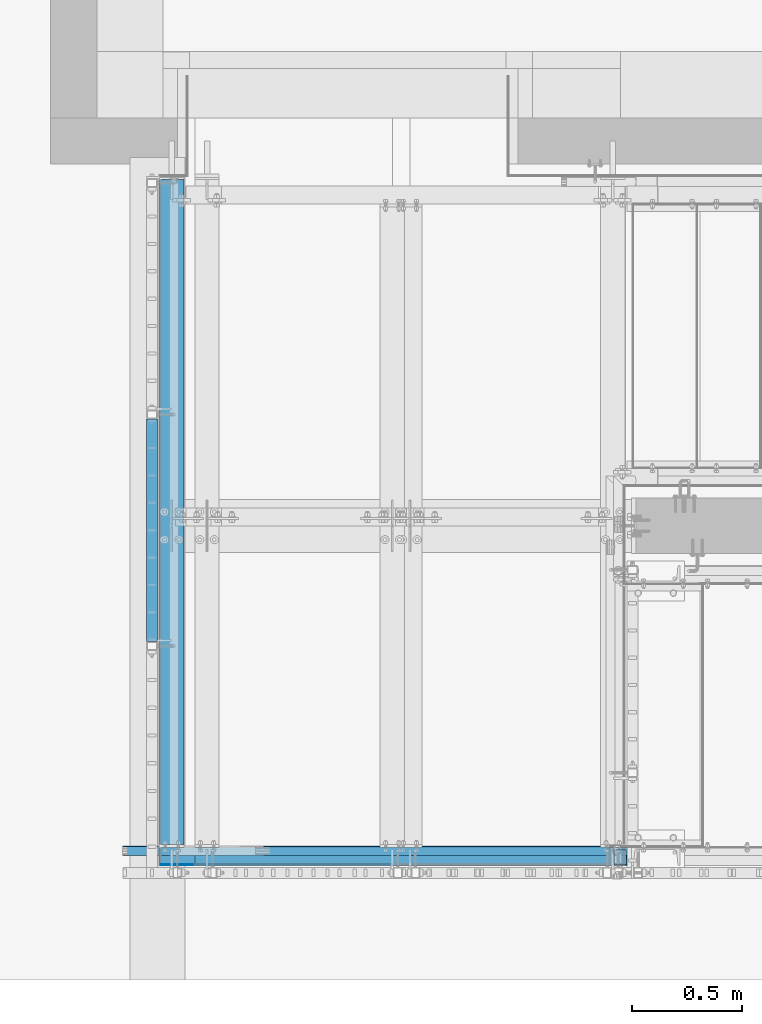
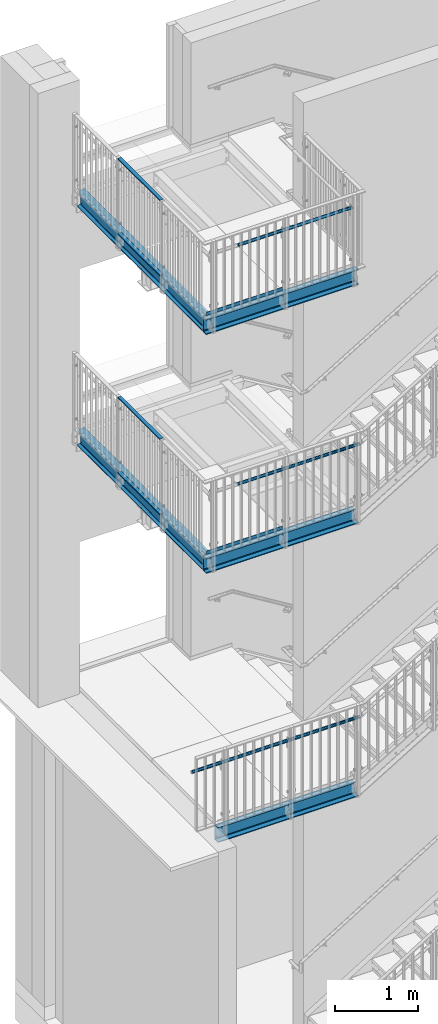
# One storey, part 25 of 410: 14 beams, 48 openings.
"""IFC2X3 building model written with IfcOpenShell, lengths in millimetres."""

from ifc_helpers import new_model, entity, si_unit, converted_unit, point, frame, frame_2d, origin, origin_with_axes, origin_2d, origin_2d_with_axis, place, context, project, spatial, circle_curve, line_curve, trimmed, segment, composite_curve, rectangle, circle, hollow_circle, i_section, u_section, outline, extrude, clip, halfspace, material, element, save


model = new_model("IFC2X3")

# Units and contexts
model_context = context("Model", 3, precision=1e-09, world=origin_with_axes())
ifc_project = project(units=[si_unit("LENGTHUNIT", "METRE", prefix="MILLI"), si_unit("AREAUNIT", "SQUARE_METRE"), si_unit("VOLUMEUNIT", "CUBIC_METRE"), converted_unit("PLANEANGLEUNIT", "DEGREE", entity("IfcPlaneAngleMeasure", 0.01745329), si_unit("PLANEANGLEUNIT", "RADIAN"), dimensions=[0, 0, 0, 0, 0, 0, 0])], contexts=[model_context])

# Site, building, storey
site_placement = place(None, origin_with_axes())
site = spatial("IfcSite", under=ifc_project, at=site_placement, Name="mKR Teilneubau & Sanierung BA1 - Ostfildern", CompositionType="ELEMENT")
building_placement = place(site_placement, origin_with_axes())
building = spatial("IfcBuilding", under=site, at=building_placement, Name="Struktur 1", CompositionType="ELEMENT")
storey_placement = place(building_placement, origin_with_axes())
storey = spatial("IfcBuildingStorey", under=building, at=storey_placement, Name="Default Storey", CompositionType="ELEMENT", Elevation=0.0)

# Beam, openings
ifc_material = material(Name="S235JR")
beam_1_placement = place(None, frame((-3809.9985317, 18549.99935555, 7330.0), z_axis=(0.0, 1.0, 0.0), x_axis=(1.0, 0.0, 0.0)))
beam_1 = element("IfcBeam", 1, at=beam_1_placement, inside=storey, material=ifc_material, Name="-", ObjectType="-", context=model_context, shape_type="SweptSolid", body=[
    extrude(i_section(OverallWidth=110.0, OverallDepth=220.0, WebThickness=5.9, FlangeThickness=9.2, FilletRadius=12.0, at=origin_2d()), origin(), (0.0, 0.0, -1.0), 3014.999355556),
])
opening_1_placement = place(beam_1_placement, frame((-33.0, 110.5, -1632.99935555), z_axis=(0.0, -1.0, 0.0), x_axis=(1.0, 0.0, 0.0)))
element("IfcOpeningElement", 2, at=opening_1_placement, cuts=beam_1, ObjectType="Opening", context=model_context, shape_type="SweptSolid", body=[
    extrude(outline(composite_curve([segment(trimmed(line_curve((7.001, -8.0), (0.0, 1.0), 16.0), [point((7.001, -8.0))], [point((7.001, 8.0))], True, "CARTESIAN"), True, "CONTINUOUS"), segment(trimmed(circle_curve(frame_2d((0.0, 8.0), x_axis=(1.0, 0.0)), 7.001), [point((7.001, 8.0))], [point((-7.001, 8.0))], True, "CARTESIAN"), True, "CONTINUOUS"), segment(trimmed(line_curve((-7.001, 8.0), (0.0, -1.0), 16.0), [point((-7.001, 8.0))], [point((-7.001, -8.0))], True, "CARTESIAN"), True, "CONTINUOUS"), segment(trimmed(circle_curve(frame_2d((0.0, -8.0), x_axis=(1.0, 0.0)), 7.001), [point((-7.001, -8.0))], [point((7.001, -8.0))], True, "CARTESIAN"), True, "CONTINUOUS")], self_intersect=False)), origin(), (0.0, 0.0, 1.0), 10.2),
])
opening_2_placement = place(beam_1_placement, frame((33.0, 110.5, -1506.99935555), z_axis=(0.0, -1.0, 0.0), x_axis=(1.0, 0.0, 0.0)))
element("IfcOpeningElement", 3, at=opening_2_placement, cuts=beam_1, ObjectType="Opening", context=model_context, shape_type="SweptSolid", body=[
    extrude(outline(composite_curve([segment(trimmed(line_curve((7.001, -8.0), (0.0, 1.0), 16.0), [point((7.001, -8.0))], [point((7.001, 8.0))], True, "CARTESIAN"), True, "CONTINUOUS"), segment(trimmed(circle_curve(frame_2d((0.0, 8.0), x_axis=(1.0, 0.0)), 7.001), [point((7.001, 8.0))], [point((-7.001, 8.0))], True, "CARTESIAN"), True, "CONTINUOUS"), segment(trimmed(line_curve((-7.001, 8.0), (0.0, -1.0), 16.0), [point((-7.001, 8.0))], [point((-7.001, -8.0))], True, "CARTESIAN"), True, "CONTINUOUS"), segment(trimmed(circle_curve(frame_2d((0.0, -8.0), x_axis=(1.0, 0.0)), 7.001), [point((-7.001, -8.0))], [point((7.001, -8.0))], True, "CARTESIAN"), True, "CONTINUOUS")], self_intersect=False)), origin(), (0.0, 0.0, 1.0), 10.2),
])
opening_3_placement = place(beam_1_placement, frame((33.0, 110.5, -1632.99935555), z_axis=(0.0, -1.0, 0.0), x_axis=(1.0, 0.0, 0.0)))
element("IfcOpeningElement", 4, at=opening_3_placement, cuts=beam_1, ObjectType="Opening", context=model_context, shape_type="SweptSolid", body=[
    extrude(outline(composite_curve([segment(trimmed(line_curve((7.001, -8.0), (0.0, 1.0), 16.0), [point((7.001, -8.0))], [point((7.001, 8.0))], True, "CARTESIAN"), True, "CONTINUOUS"), segment(trimmed(circle_curve(frame_2d((0.0, 8.0), x_axis=(1.0, 0.0)), 7.001), [point((7.001, 8.0))], [point((-7.001, 8.0))], True, "CARTESIAN"), True, "CONTINUOUS"), segment(trimmed(line_curve((-7.001, 8.0), (0.0, -1.0), 16.0), [point((-7.001, 8.0))], [point((-7.001, -8.0))], True, "CARTESIAN"), True, "CONTINUOUS"), segment(trimmed(circle_curve(frame_2d((0.0, -8.0), x_axis=(1.0, 0.0)), 7.001), [point((-7.001, -8.0))], [point((7.001, -8.0))], True, "CARTESIAN"), True, "CONTINUOUS")], self_intersect=False)), origin(), (0.0, 0.0, 1.0), 10.2),
])
opening_4_placement = place(beam_1_placement, frame((-33.0, 110.5, -1506.99935555), z_axis=(0.0, -1.0, 0.0), x_axis=(1.0, 0.0, 0.0)))
element("IfcOpeningElement", 5, at=opening_4_placement, cuts=beam_1, ObjectType="Opening", context=model_context, shape_type="SweptSolid", body=[
    extrude(outline(composite_curve([segment(trimmed(line_curve((7.001, -8.0), (0.0, 1.0), 16.0), [point((7.001, -8.0))], [point((7.001, 8.0))], True, "CARTESIAN"), True, "CONTINUOUS"), segment(trimmed(circle_curve(frame_2d((0.0, 8.0), x_axis=(1.0, 0.0)), 7.001), [point((7.001, 8.0))], [point((-7.001, 8.0))], True, "CARTESIAN"), True, "CONTINUOUS"), segment(trimmed(line_curve((-7.001, 8.0), (0.0, -1.0), 16.0), [point((-7.001, 8.0))], [point((-7.001, -8.0))], True, "CARTESIAN"), True, "CONTINUOUS"), segment(trimmed(circle_curve(frame_2d((0.0, -8.0), x_axis=(1.0, 0.0)), 7.001), [point((-7.001, -8.0))], [point((7.001, -8.0))], True, "CARTESIAN"), True, "CONTINUOUS")], self_intersect=False)), origin(), (0.0, 0.0, 1.0), 10.2),
])
opening_5_placement = place(beam_1_placement, frame((-3.45, 79.0, -15.0), z_axis=(1.0, 0.0, 0.0), x_axis=(0.0, 0.0, -1.0)))
element("IfcOpeningElement", 6, at=opening_5_placement, cuts=beam_1, ObjectType="Opening", context=model_context, shape_type="SweptSolid", body=[
    extrude(circle(Radius=7.001, at=origin_2d_with_axis()), origin(), (0.0, 0.0, 1.0), 6.9),
])
opening_6_placement = place(beam_1_placement, frame((-3.45, -79.0, -15.0), z_axis=(1.0, 0.0, 0.0), x_axis=(0.0, 0.0, -1.0)))
element("IfcOpeningElement", 7, at=opening_6_placement, cuts=beam_1, ObjectType="Opening", context=model_context, shape_type="SweptSolid", body=[
    extrude(circle(Radius=7.001, at=origin_2d_with_axis()), origin(), (0.0, 0.0, 1.0), 6.9),
])

# Beams
for number, where, z_axis, x_axis in (
    (8, (-3899.9485317, 17464.499999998, 5092.500007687), (0.0, 1.0, 0.0), (0.0, 0.0, -1.0)),
    (9, (-3899.9485317, 16455.499999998, 3992.500000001), (0.0, -1.0, 0.0), (0.0, 0.0, 1.0)),
    (10, (-3899.9485317, 17464.499999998, 8592.500007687), (0.0, 1.0, 0.0), (0.0, 0.0, -1.0)),
    (11, (-3899.9485317, 16455.499999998, 7492.500000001), (0.0, -1.0, 0.0), (0.0, 0.0, 1.0)),
):
    element("IfcBeam", number, at=place(None, frame(where, z_axis=z_axis, x_axis=x_axis)), inside=storey, material=ifc_material, Name="-", ObjectType="-", context=model_context, shape_type="SweptSolid", body=[
        extrude(rectangle(XDim=15.0, YDim=50.0, at=origin_2d()), origin(), (0.0, 0.0, -1.0), 1009.0),
    ])

# Beam, openings
beam_2_placement = place(None, frame((-3809.9985317, 18549.99935555, 3830.0), z_axis=(0.0, 1.0, 0.0), x_axis=(1.0, 0.0, 0.0)))
beam_2 = element("IfcBeam", 12, at=beam_2_placement, inside=storey, material=ifc_material, Name="-", ObjectType="-", context=model_context, shape_type="SweptSolid", body=[
    extrude(i_section(OverallWidth=110.0, OverallDepth=220.0, WebThickness=5.9, FlangeThickness=9.2, FilletRadius=12.0, at=origin_2d()), origin(), (0.0, 0.0, -1.0), 3014.999355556),
])
opening_7_placement = place(beam_2_placement, frame((33.0, 110.5, -1632.99935555), z_axis=(0.0, -1.0, 0.0), x_axis=(1.0, 0.0, 0.0)))
element("IfcOpeningElement", 13, at=opening_7_placement, cuts=beam_2, ObjectType="Opening", context=model_context, shape_type="SweptSolid", body=[
    extrude(outline(composite_curve([segment(trimmed(line_curve((7.001, -8.0), (0.0, 1.0), 16.0), [point((7.001, -8.0))], [point((7.001, 8.0))], True, "CARTESIAN"), True, "CONTINUOUS"), segment(trimmed(circle_curve(frame_2d((0.0, 8.0), x_axis=(1.0, 0.0)), 7.001), [point((7.001, 8.0))], [point((-7.001, 8.0))], True, "CARTESIAN"), True, "CONTINUOUS"), segment(trimmed(line_curve((-7.001, 8.0), (0.0, -1.0), 16.0), [point((-7.001, 8.0))], [point((-7.001, -8.0))], True, "CARTESIAN"), True, "CONTINUOUS"), segment(trimmed(circle_curve(frame_2d((0.0, -8.0), x_axis=(1.0, 0.0)), 7.001), [point((-7.001, -8.0))], [point((7.001, -8.0))], True, "CARTESIAN"), True, "CONTINUOUS")], self_intersect=False)), origin(), (0.0, 0.0, 1.0), 10.2),
])
opening_8_placement = place(beam_2_placement, frame((-33.0, 110.5, -1632.99935555), z_axis=(0.0, -1.0, 0.0), x_axis=(1.0, 0.0, 0.0)))
element("IfcOpeningElement", 14, at=opening_8_placement, cuts=beam_2, ObjectType="Opening", context=model_context, shape_type="SweptSolid", body=[
    extrude(outline(composite_curve([segment(trimmed(line_curve((7.001, -8.0), (0.0, 1.0), 16.0), [point((7.001, -8.0))], [point((7.001, 8.0))], True, "CARTESIAN"), True, "CONTINUOUS"), segment(trimmed(circle_curve(frame_2d((0.0, 8.0), x_axis=(1.0, 0.0)), 7.001), [point((7.001, 8.0))], [point((-7.001, 8.0))], True, "CARTESIAN"), True, "CONTINUOUS"), segment(trimmed(line_curve((-7.001, 8.0), (0.0, -1.0), 16.0), [point((-7.001, 8.0))], [point((-7.001, -8.0))], True, "CARTESIAN"), True, "CONTINUOUS"), segment(trimmed(circle_curve(frame_2d((0.0, -8.0), x_axis=(1.0, 0.0)), 7.001), [point((-7.001, -8.0))], [point((7.001, -8.0))], True, "CARTESIAN"), True, "CONTINUOUS")], self_intersect=False)), origin(), (0.0, 0.0, 1.0), 10.2),
])
opening_9_placement = place(beam_2_placement, frame((33.0, 110.5, -1506.99935555), z_axis=(0.0, -1.0, 0.0), x_axis=(1.0, 0.0, 0.0)))
element("IfcOpeningElement", 15, at=opening_9_placement, cuts=beam_2, ObjectType="Opening", context=model_context, shape_type="SweptSolid", body=[
    extrude(outline(composite_curve([segment(trimmed(line_curve((7.001, -8.0), (0.0, 1.0), 16.0), [point((7.001, -8.0))], [point((7.001, 8.0))], True, "CARTESIAN"), True, "CONTINUOUS"), segment(trimmed(circle_curve(frame_2d((0.0, 8.0), x_axis=(1.0, 0.0)), 7.001), [point((7.001, 8.0))], [point((-7.001, 8.0))], True, "CARTESIAN"), True, "CONTINUOUS"), segment(trimmed(line_curve((-7.001, 8.0), (0.0, -1.0), 16.0), [point((-7.001, 8.0))], [point((-7.001, -8.0))], True, "CARTESIAN"), True, "CONTINUOUS"), segment(trimmed(circle_curve(frame_2d((0.0, -8.0), x_axis=(1.0, 0.0)), 7.001), [point((-7.001, -8.0))], [point((7.001, -8.0))], True, "CARTESIAN"), True, "CONTINUOUS")], self_intersect=False)), origin(), (0.0, 0.0, 1.0), 10.2),
])
opening_10_placement = place(beam_2_placement, frame((-33.0, 110.5, -1506.99935555), z_axis=(0.0, -1.0, 0.0), x_axis=(1.0, 0.0, 0.0)))
element("IfcOpeningElement", 16, at=opening_10_placement, cuts=beam_2, ObjectType="Opening", context=model_context, shape_type="SweptSolid", body=[
    extrude(outline(composite_curve([segment(trimmed(line_curve((7.001, -8.0), (0.0, 1.0), 16.0), [point((7.001, -8.0))], [point((7.001, 8.0))], True, "CARTESIAN"), True, "CONTINUOUS"), segment(trimmed(circle_curve(frame_2d((0.0, 8.0), x_axis=(1.0, 0.0)), 7.001), [point((7.001, 8.0))], [point((-7.001, 8.0))], True, "CARTESIAN"), True, "CONTINUOUS"), segment(trimmed(line_curve((-7.001, 8.0), (0.0, -1.0), 16.0), [point((-7.001, 8.0))], [point((-7.001, -8.0))], True, "CARTESIAN"), True, "CONTINUOUS"), segment(trimmed(circle_curve(frame_2d((0.0, -8.0), x_axis=(1.0, 0.0)), 7.001), [point((-7.001, -8.0))], [point((7.001, -8.0))], True, "CARTESIAN"), True, "CONTINUOUS")], self_intersect=False)), origin(), (0.0, 0.0, 1.0), 10.2),
])
opening_11_placement = place(beam_2_placement, frame((-3.45, 79.0, -15.0), z_axis=(1.0, 0.0, 0.0), x_axis=(0.0, 0.0, -1.0)))
element("IfcOpeningElement", 17, at=opening_11_placement, cuts=beam_2, ObjectType="Opening", context=model_context, shape_type="SweptSolid", body=[
    extrude(circle(Radius=7.001, at=origin_2d_with_axis()), origin(), (0.0, 0.0, 1.0), 6.9),
])
opening_12_placement = place(beam_2_placement, frame((-3.45, -79.0, -15.0), z_axis=(1.0, 0.0, 0.0), x_axis=(0.0, 0.0, -1.0)))
element("IfcOpeningElement", 18, at=opening_12_placement, cuts=beam_2, ObjectType="Opening", context=model_context, shape_type="SweptSolid", body=[
    extrude(circle(Radius=7.001, at=origin_2d_with_axis()), origin(), (0.0, 0.0, 1.0), 6.9),
])

beam_3_placement = place(None, frame((-1519.410122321, 15498.599999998, -170.0), z_axis=(1.0, 0.0, 0.0), x_axis=(0.0, -1.0, 0.0)))
beam_3 = element("IfcBeam", 19, at=beam_3_placement, inside=storey, material=ifc_material, Name="-", ObjectType="-", context=model_context, shape_type="Clipping", body=[
    clip(extrude(u_section(Depth=220.0, FlangeWidth=80.0, WebThickness=9.0, FlangeThickness=12.5, FilletRadius=12.5, EdgeRadius=6.0, FlangeSlope=4.574, at=frame_2d((18.6, 0.0))), origin(), (0.0, 0.0, -1.0), 2185.588409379), halfspace(frame((15498.599999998, 298.446694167, -172.556216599), z_axis=(0.0, 0.266827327, -0.963744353), x_axis=(1.0, 0.0, 0.0)), True)),
])
opening_13_placement = place(beam_3_placement, frame((-21.9, -1.5e-08, -2130.588409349), z_axis=(1.0, 0.0, 0.0), x_axis=(0.0, 0.0, 1.0)))
element("IfcOpeningElement", 20, at=opening_13_placement, cuts=beam_3, ObjectType="Opening", context=model_context, shape_type="SweptSolid", body=[
    extrude(circle(Radius=7.001, at=frame_2d((30.0, 60.0), x_axis=(1.0, 0.0))), origin(), (0.0, 0.0, 1.0), 10.0),
])
opening_14_placement = place(beam_3_placement, frame((-21.9, -1.5e-08, -2130.588409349), z_axis=(1.0, 0.0, 0.0), x_axis=(0.0, 0.0, 1.0)))
element("IfcOpeningElement", 21, at=opening_14_placement, cuts=beam_3, ObjectType="Opening", context=model_context, shape_type="SweptSolid", body=[
    extrude(circle(Radius=7.001, at=frame_2d((-30.0, 60.0), x_axis=(1.0, 0.0))), origin(), (0.0, 0.0, 1.0), 10.0),
])
opening_15_placement = place(beam_3_placement, frame((-21.9, -1.5e-08, -2130.588409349), z_axis=(1.0, 0.0, 0.0), x_axis=(0.0, 0.0, 1.0)))
element("IfcOpeningElement", 22, at=opening_15_placement, cuts=beam_3, ObjectType="Opening", context=model_context, shape_type="SweptSolid", body=[
    extrude(circle(Radius=7.001, at=frame_2d((30.0, -60.0), x_axis=(1.0, 0.0))), origin(), (0.0, 0.0, 1.0), 10.0),
])
opening_16_placement = place(beam_3_placement, frame((-21.9, -1.5e-08, -2130.588409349), z_axis=(1.0, 0.0, 0.0), x_axis=(0.0, 0.0, 1.0)))
element("IfcOpeningElement", 23, at=opening_16_placement, cuts=beam_3, ObjectType="Opening", context=model_context, shape_type="SweptSolid", body=[
    extrude(circle(Radius=7.001, at=frame_2d((-30.0, -60.0), x_axis=(1.0, 0.0))), origin(), (0.0, 0.0, 1.0), 10.0),
])
opening_17_placement = place(beam_3_placement, frame((-21.9, -1.5e-08, -1210.588409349), z_axis=(1.0, 0.0, 0.0), x_axis=(0.0, 0.0, 1.0)))
element("IfcOpeningElement", 24, at=opening_17_placement, cuts=beam_3, ObjectType="Opening", context=model_context, shape_type="SweptSolid", body=[
    extrude(circle(Radius=7.001, at=frame_2d((30.0, 60.0), x_axis=(1.0, 0.0))), origin(), (0.0, 0.0, 1.0), 10.0),
])
opening_18_placement = place(beam_3_placement, frame((-21.9, -1.5e-08, -1210.588409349), z_axis=(1.0, 0.0, 0.0), x_axis=(0.0, 0.0, 1.0)))
element("IfcOpeningElement", 25, at=opening_18_placement, cuts=beam_3, ObjectType="Opening", context=model_context, shape_type="SweptSolid", body=[
    extrude(circle(Radius=7.001, at=frame_2d((-30.0, 60.0), x_axis=(1.0, 0.0))), origin(), (0.0, 0.0, 1.0), 10.0),
])
opening_19_placement = place(beam_3_placement, frame((-21.9, -1.5e-08, -1210.588409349), z_axis=(1.0, 0.0, 0.0), x_axis=(0.0, 0.0, 1.0)))
element("IfcOpeningElement", 26, at=opening_19_placement, cuts=beam_3, ObjectType="Opening", context=model_context, shape_type="SweptSolid", body=[
    extrude(circle(Radius=7.001, at=frame_2d((30.0, -60.0), x_axis=(1.0, 0.0))), origin(), (0.0, 0.0, 1.0), 10.0),
])
opening_20_placement = place(beam_3_placement, frame((-21.9, -1.5e-08, -1210.588409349), z_axis=(1.0, 0.0, 0.0), x_axis=(0.0, 0.0, 1.0)))
element("IfcOpeningElement", 27, at=opening_20_placement, cuts=beam_3, ObjectType="Opening", context=model_context, shape_type="SweptSolid", body=[
    extrude(circle(Radius=7.001, at=frame_2d((-30.0, -60.0), x_axis=(1.0, 0.0))), origin(), (0.0, 0.0, 1.0), 10.0),
])
opening_21_placement = place(beam_3_placement, frame((-21.9, -1.5e-08, -290.588409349), z_axis=(1.0, 0.0, 0.0), x_axis=(0.0, 0.0, 1.0)))
element("IfcOpeningElement", 28, at=opening_21_placement, cuts=beam_3, ObjectType="Opening", context=model_context, shape_type="SweptSolid", body=[
    extrude(circle(Radius=7.001, at=frame_2d((30.0, 60.0), x_axis=(1.0, 0.0))), origin(), (0.0, 0.0, 1.0), 10.0),
])
opening_22_placement = place(beam_3_placement, frame((-21.9, -1.5e-08, -290.588409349), z_axis=(1.0, 0.0, 0.0), x_axis=(0.0, 0.0, 1.0)))
element("IfcOpeningElement", 29, at=opening_22_placement, cuts=beam_3, ObjectType="Opening", context=model_context, shape_type="SweptSolid", body=[
    extrude(circle(Radius=7.001, at=frame_2d((-30.0, 60.0), x_axis=(1.0, 0.0))), origin(), (0.0, 0.0, 1.0), 10.0),
])
opening_23_placement = place(beam_3_placement, frame((-21.9, -1.5e-08, -290.588409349), z_axis=(1.0, 0.0, 0.0), x_axis=(0.0, 0.0, 1.0)))
element("IfcOpeningElement", 30, at=opening_23_placement, cuts=beam_3, ObjectType="Opening", context=model_context, shape_type="SweptSolid", body=[
    extrude(circle(Radius=7.001, at=frame_2d((30.0, -60.0), x_axis=(1.0, 0.0))), origin(), (0.0, 0.0, 1.0), 10.0),
])
opening_24_placement = place(beam_3_placement, frame((-21.9, -1.5e-08, -290.588409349), z_axis=(1.0, 0.0, 0.0), x_axis=(0.0, 0.0, 1.0)))
element("IfcOpeningElement", 31, at=opening_24_placement, cuts=beam_3, ObjectType="Opening", context=model_context, shape_type="SweptSolid", body=[
    extrude(circle(Radius=7.001, at=frame_2d((-30.0, -60.0), x_axis=(1.0, 0.0))), origin(), (0.0, 0.0, 1.0), 10.0),
])

beam_4_placement = place(None, frame((-1519.320108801, 15498.599999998, 3830.0), z_axis=(1.0, 0.0, 0.0), x_axis=(0.0, -1.0, 0.0)))
beam_4 = element("IfcBeam", 32, at=beam_4_placement, inside=storey, material=ifc_material, Name="-", ObjectType="-", context=model_context, shape_type="Clipping", body=[
    clip(extrude(u_section(Depth=220.0, FlangeWidth=80.0, WebThickness=9.0, FlangeThickness=12.5, FilletRadius=12.5, EdgeRadius=6.0, FlangeSlope=4.574, at=frame_2d((18.6, 0.0))), origin(), (0.0, 0.0, -1.0), 2345.678422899), halfspace(frame((15498.599999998, 4012.832475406, 862.470107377), z_axis=(0.0, 0.268153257, -0.963376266), x_axis=(1.0, 0.0, 0.0)), True)),
])
opening_25_placement = place(beam_4_placement, frame((-21.9, -1.5e-08, -1290.678422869), z_axis=(1.0, 0.0, 0.0), x_axis=(0.0, 0.0, 1.0)))
element("IfcOpeningElement", 33, at=opening_25_placement, cuts=beam_4, ObjectType="Opening", context=model_context, shape_type="SweptSolid", body=[
    extrude(circle(Radius=7.001, at=frame_2d((30.0, 60.0), x_axis=(1.0, 0.0))), origin(), (0.0, 0.0, 1.0), 10.0),
])
opening_26_placement = place(beam_4_placement, frame((-21.9, -1.5e-08, -1290.678422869), z_axis=(1.0, 0.0, 0.0), x_axis=(0.0, 0.0, 1.0)))
element("IfcOpeningElement", 34, at=opening_26_placement, cuts=beam_4, ObjectType="Opening", context=model_context, shape_type="SweptSolid", body=[
    extrude(circle(Radius=7.001, at=frame_2d((-30.0, 60.0), x_axis=(1.0, 0.0))), origin(), (0.0, 0.0, 1.0), 10.0),
])
opening_27_placement = place(beam_4_placement, frame((-21.9, -1.5e-08, -1290.678422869), z_axis=(1.0, 0.0, 0.0), x_axis=(0.0, 0.0, 1.0)))
element("IfcOpeningElement", 35, at=opening_27_placement, cuts=beam_4, ObjectType="Opening", context=model_context, shape_type="SweptSolid", body=[
    extrude(circle(Radius=7.001, at=frame_2d((30.0, -60.0), x_axis=(1.0, 0.0))), origin(), (0.0, 0.0, 1.0), 10.0),
])
opening_28_placement = place(beam_4_placement, frame((-21.9, -1.5e-08, -1290.678422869), z_axis=(1.0, 0.0, 0.0), x_axis=(0.0, 0.0, 1.0)))
element("IfcOpeningElement", 36, at=opening_28_placement, cuts=beam_4, ObjectType="Opening", context=model_context, shape_type="SweptSolid", body=[
    extrude(circle(Radius=7.001, at=frame_2d((-30.0, -60.0), x_axis=(1.0, 0.0))), origin(), (0.0, 0.0, 1.0), 10.0),
])
opening_29_placement = place(beam_4_placement, frame((-21.9, -1.5e-08, -2290.678422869), z_axis=(1.0, 0.0, 0.0), x_axis=(0.0, 0.0, 1.0)))
element("IfcOpeningElement", 37, at=opening_29_placement, cuts=beam_4, ObjectType="Opening", context=model_context, shape_type="SweptSolid", body=[
    extrude(circle(Radius=7.001, at=frame_2d((30.0, 60.0), x_axis=(1.0, 0.0))), origin(), (0.0, 0.0, 1.0), 10.0),
])
opening_30_placement = place(beam_4_placement, frame((-21.9, -1.5e-08, -2290.678422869), z_axis=(1.0, 0.0, 0.0), x_axis=(0.0, 0.0, 1.0)))
element("IfcOpeningElement", 38, at=opening_30_placement, cuts=beam_4, ObjectType="Opening", context=model_context, shape_type="SweptSolid", body=[
    extrude(circle(Radius=7.001, at=frame_2d((-30.0, 60.0), x_axis=(1.0, 0.0))), origin(), (0.0, 0.0, 1.0), 10.0),
])
opening_31_placement = place(beam_4_placement, frame((-21.9, -1.5e-08, -2290.678422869), z_axis=(1.0, 0.0, 0.0), x_axis=(0.0, 0.0, 1.0)))
element("IfcOpeningElement", 39, at=opening_31_placement, cuts=beam_4, ObjectType="Opening", context=model_context, shape_type="SweptSolid", body=[
    extrude(circle(Radius=7.001, at=frame_2d((30.0, -60.0), x_axis=(1.0, 0.0))), origin(), (0.0, 0.0, 1.0), 10.0),
])
opening_32_placement = place(beam_4_placement, frame((-21.9, -1.5e-08, -2290.678422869), z_axis=(1.0, 0.0, 0.0), x_axis=(0.0, 0.0, 1.0)))
element("IfcOpeningElement", 40, at=opening_32_placement, cuts=beam_4, ObjectType="Opening", context=model_context, shape_type="SweptSolid", body=[
    extrude(circle(Radius=7.001, at=frame_2d((-30.0, -60.0), x_axis=(1.0, 0.0))), origin(), (0.0, 0.0, 1.0), 10.0),
])
opening_33_placement = place(beam_4_placement, frame((-21.9, -1.5e-08, -290.678422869), z_axis=(1.0, 0.0, 0.0), x_axis=(0.0, 0.0, 1.0)))
element("IfcOpeningElement", 41, at=opening_33_placement, cuts=beam_4, ObjectType="Opening", context=model_context, shape_type="SweptSolid", body=[
    extrude(circle(Radius=7.001, at=frame_2d((30.0, 60.0), x_axis=(1.0, 0.0))), origin(), (0.0, 0.0, 1.0), 10.0),
])
opening_34_placement = place(beam_4_placement, frame((-21.9, -1.5e-08, -290.678422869), z_axis=(1.0, 0.0, 0.0), x_axis=(0.0, 0.0, 1.0)))
element("IfcOpeningElement", 42, at=opening_34_placement, cuts=beam_4, ObjectType="Opening", context=model_context, shape_type="SweptSolid", body=[
    extrude(circle(Radius=7.001, at=frame_2d((-30.0, 60.0), x_axis=(1.0, 0.0))), origin(), (0.0, 0.0, 1.0), 10.0),
])
opening_35_placement = place(beam_4_placement, frame((-21.9, -1.5e-08, -290.678422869), z_axis=(1.0, 0.0, 0.0), x_axis=(0.0, 0.0, 1.0)))
element("IfcOpeningElement", 43, at=opening_35_placement, cuts=beam_4, ObjectType="Opening", context=model_context, shape_type="SweptSolid", body=[
    extrude(circle(Radius=7.001, at=frame_2d((30.0, -60.0), x_axis=(1.0, 0.0))), origin(), (0.0, 0.0, 1.0), 10.0),
])
opening_36_placement = place(beam_4_placement, frame((-21.9, -1.5e-08, -290.678422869), z_axis=(1.0, 0.0, 0.0), x_axis=(0.0, 0.0, 1.0)))
element("IfcOpeningElement", 44, at=opening_36_placement, cuts=beam_4, ObjectType="Opening", context=model_context, shape_type="SweptSolid", body=[
    extrude(circle(Radius=7.001, at=frame_2d((-30.0, -60.0), x_axis=(1.0, 0.0))), origin(), (0.0, 0.0, 1.0), 10.0),
])

beam_5_placement = place(None, frame((-3864.9985317, 15498.599999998, 7330.0), z_axis=(-1.0, 0.0, 0.0), x_axis=(0.0, -1.0, 0.0)))
beam_5 = element("IfcBeam", 45, at=beam_5_placement, inside=storey, material=ifc_material, Name="-", ObjectType="-", context=model_context, shape_type="SweptSolid", body=[
    extrude(u_section(Depth=220.0, FlangeWidth=80.0, WebThickness=9.0, FlangeThickness=12.5, FilletRadius=12.5, EdgeRadius=6.0, FlangeSlope=4.574, at=frame_2d((18.6, 0.0))), origin(), (0.0, 0.0, -1.0), 2110.0),
])
opening_37_placement = place(beam_5_placement, frame((-21.9, 1.5e-08, -2055.000000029), z_axis=(1.0, 0.0, 0.0), x_axis=(0.0, 0.0, -1.0)))
element("IfcOpeningElement", 46, at=opening_37_placement, cuts=beam_5, ObjectType="Opening", context=model_context, shape_type="SweptSolid", body=[
    extrude(circle(Radius=7.001, at=frame_2d((30.0, 60.0), x_axis=(1.0, 0.0))), origin(), (0.0, 0.0, 1.0), 10.0),
])
opening_38_placement = place(beam_5_placement, frame((-21.9, 1.5e-08, -2055.000000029), z_axis=(1.0, 0.0, 0.0), x_axis=(0.0, 0.0, -1.0)))
element("IfcOpeningElement", 47, at=opening_38_placement, cuts=beam_5, ObjectType="Opening", context=model_context, shape_type="SweptSolid", body=[
    extrude(circle(Radius=7.001, at=frame_2d((-30.0, 60.0), x_axis=(1.0, 0.0))), origin(), (0.0, 0.0, 1.0), 10.0),
])
opening_39_placement = place(beam_5_placement, frame((-21.9, 1.5e-08, -2055.000000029), z_axis=(1.0, 0.0, 0.0), x_axis=(0.0, 0.0, -1.0)))
element("IfcOpeningElement", 48, at=opening_39_placement, cuts=beam_5, ObjectType="Opening", context=model_context, shape_type="SweptSolid", body=[
    extrude(circle(Radius=7.001, at=frame_2d((30.0, -60.0), x_axis=(1.0, 0.0))), origin(), (0.0, 0.0, 1.0), 10.0),
])
opening_40_placement = place(beam_5_placement, frame((-21.9, 1.5e-08, -2055.000000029), z_axis=(1.0, 0.0, 0.0), x_axis=(0.0, 0.0, -1.0)))
element("IfcOpeningElement", 49, at=opening_40_placement, cuts=beam_5, ObjectType="Opening", context=model_context, shape_type="SweptSolid", body=[
    extrude(circle(Radius=7.001, at=frame_2d((-30.0, -60.0), x_axis=(1.0, 0.0))), origin(), (0.0, 0.0, 1.0), 10.0),
])
opening_41_placement = place(beam_5_placement, frame((-21.9, 1.5e-08, -55.000000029), z_axis=(1.0, 0.0, 0.0), x_axis=(0.0, 0.0, -1.0)))
element("IfcOpeningElement", 50, at=opening_41_placement, cuts=beam_5, ObjectType="Opening", context=model_context, shape_type="SweptSolid", body=[
    extrude(circle(Radius=7.001, at=frame_2d((30.0, 60.0), x_axis=(1.0, 0.0))), origin(), (0.0, 0.0, 1.0), 10.0),
])
opening_42_placement = place(beam_5_placement, frame((-21.9, 1.5e-08, -55.000000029), z_axis=(1.0, 0.0, 0.0), x_axis=(0.0, 0.0, -1.0)))
element("IfcOpeningElement", 51, at=opening_42_placement, cuts=beam_5, ObjectType="Opening", context=model_context, shape_type="SweptSolid", body=[
    extrude(circle(Radius=7.001, at=frame_2d((-30.0, 60.0), x_axis=(1.0, 0.0))), origin(), (0.0, 0.0, 1.0), 10.0),
])
opening_43_placement = place(beam_5_placement, frame((-21.9, 1.5e-08, -55.000000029), z_axis=(1.0, 0.0, 0.0), x_axis=(0.0, 0.0, -1.0)))
element("IfcOpeningElement", 52, at=opening_43_placement, cuts=beam_5, ObjectType="Opening", context=model_context, shape_type="SweptSolid", body=[
    extrude(circle(Radius=7.001, at=frame_2d((30.0, -60.0), x_axis=(1.0, 0.0))), origin(), (0.0, 0.0, 1.0), 10.0),
])
opening_44_placement = place(beam_5_placement, frame((-21.9, 1.5e-08, -55.000000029), z_axis=(1.0, 0.0, 0.0), x_axis=(0.0, 0.0, -1.0)))
element("IfcOpeningElement", 53, at=opening_44_placement, cuts=beam_5, ObjectType="Opening", context=model_context, shape_type="SweptSolid", body=[
    extrude(circle(Radius=7.001, at=frame_2d((-30.0, -60.0), x_axis=(1.0, 0.0))), origin(), (0.0, 0.0, 1.0), 10.0),
])
opening_45_placement = place(beam_5_placement, frame((-21.9, 1.5e-08, -1055.000000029), z_axis=(1.0, 0.0, 0.0), x_axis=(0.0, 0.0, -1.0)))
element("IfcOpeningElement", 54, at=opening_45_placement, cuts=beam_5, ObjectType="Opening", context=model_context, shape_type="SweptSolid", body=[
    extrude(circle(Radius=7.001, at=frame_2d((30.0, 60.0), x_axis=(1.0, 0.0))), origin(), (0.0, 0.0, 1.0), 10.0),
])
opening_46_placement = place(beam_5_placement, frame((-21.9, 1.5e-08, -1055.000000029), z_axis=(1.0, 0.0, 0.0), x_axis=(0.0, 0.0, -1.0)))
element("IfcOpeningElement", 55, at=opening_46_placement, cuts=beam_5, ObjectType="Opening", context=model_context, shape_type="SweptSolid", body=[
    extrude(circle(Radius=7.001, at=frame_2d((-30.0, 60.0), x_axis=(1.0, 0.0))), origin(), (0.0, 0.0, 1.0), 10.0),
])
opening_47_placement = place(beam_5_placement, frame((-21.9, 1.5e-08, -1055.000000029), z_axis=(1.0, 0.0, 0.0), x_axis=(0.0, 0.0, -1.0)))
element("IfcOpeningElement", 56, at=opening_47_placement, cuts=beam_5, ObjectType="Opening", context=model_context, shape_type="SweptSolid", body=[
    extrude(circle(Radius=7.001, at=frame_2d((30.0, -60.0), x_axis=(1.0, 0.0))), origin(), (0.0, 0.0, 1.0), 10.0),
])
opening_48_placement = place(beam_5_placement, frame((-21.9, 1.5e-08, -1055.000000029), z_axis=(1.0, 0.0, 0.0), x_axis=(0.0, 0.0, -1.0)))
element("IfcOpeningElement", 57, at=opening_48_placement, cuts=beam_5, ObjectType="Opening", context=model_context, shape_type="SweptSolid", body=[
    extrude(circle(Radius=7.001, at=frame_2d((-30.0, -60.0), x_axis=(1.0, 0.0))), origin(), (0.0, 0.0, 1.0), 10.0),
])

# Beams
for number, where, z_axis, x_axis in (
    (58, (-2810.9985317, 15441.999999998, 7525.0), (1.0, 0.0, 0.0), (0.0, 1.0, 0.0)),
    (59, (-3860.9985317, 15441.999999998, 4025.0), (-1.0, 0.0, 0.0), (0.0, -1.0, 0.0)),
):
    element("IfcBeam", number, at=place(None, frame(where, z_axis=z_axis, x_axis=x_axis)), inside=storey, material=ifc_material, Name="-", ObjectType="-", context=model_context, shape_type="SweptSolid", body=[
        extrude(rectangle(XDim=4.0, YDim=50.0, at=origin_2d()), origin(), (0.0, 0.0, -1.0), 1050.0),
    ])
beam_6_placement = place(None, frame((-4030.78424607, 15505.999999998, 828.8), z_axis=(-1.0, 0.0, 0.0), x_axis=(0.0, -1.0, 0.0)))
element("IfcBeam", 60, at=beam_6_placement, inside=storey, Name="-", ObjectType="-", context=model_context, shape_type="Clipping", body=[
    clip(extrude(hollow_circle(Radius=21.2, WallThickness=3.2, at=origin_2d()), origin(), (0.0, 0.0, -1.0), 2362.76300165), halfspace(frame((15505.999999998, -1206.729394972, -2665.754195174), z_axis=(0.0, -0.266827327, 0.963744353), x_axis=(1.0, 0.0, 0.0)), True)),
])
beam_7_placement = place(None, frame((-3394.9485317, 15505.999999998, 4828.8), z_axis=(-1.0, 0.0, 0.0), x_axis=(0.0, -1.0, 0.0)))
element("IfcBeam", 61, at=beam_7_placement, inside=storey, Name="-", ObjectType="-", context=model_context, shape_type="Clipping", body=[
    clip(extrude(hollow_circle(Radius=21.2, WallThickness=3.2, at=origin_2d()), origin(), (0.0, 0.0, -1.0), 1726.970594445), halfspace(frame((15505.999999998, -4920.512231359, -3065.460134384), z_axis=(0.0, -0.268153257, 0.963376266), x_axis=(1.0, 0.0, 0.0)), True)),
])
beam_8_placement = place(None, frame((-3394.9485317, 15505.999999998, 8328.8), z_axis=(-1.0, 0.0, 0.0), x_axis=(0.0, -1.0, 0.0)))
element("IfcBeam", 62, at=beam_8_placement, inside=storey, Name="-", ObjectType="-", context=model_context, shape_type="Clipping", body=[
    clip(extrude(hollow_circle(Radius=21.2, WallThickness=3.2, at=origin_2d()), origin(), (0.0, 0.0, -1.0), 1617.3), halfspace(frame((8663.024972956, -8328.8, -10237.923558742), z_axis=(0.707106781, 0.0, 0.707106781), x_axis=(0.707106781, 0.0, -0.707106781)), True)),
])

save(model, "model.ifc")
